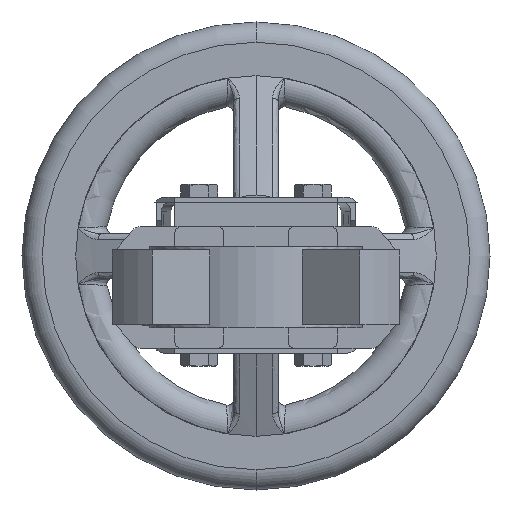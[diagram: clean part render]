
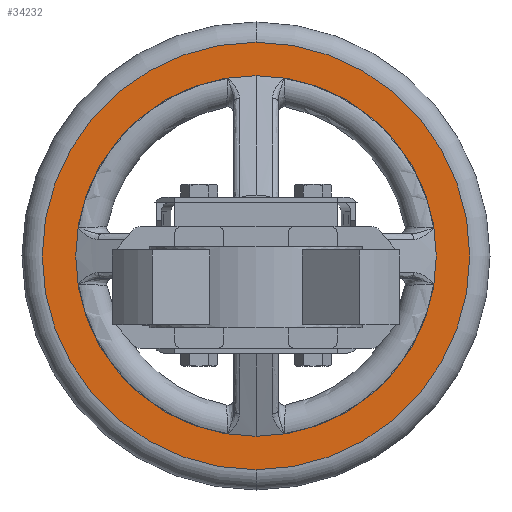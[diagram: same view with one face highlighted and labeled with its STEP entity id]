
A CAD part, front view. The second image highlights one B-rep face of the part: STEP entity #34232.
In plain terms, the highlighted planar face has unit normal (0, -1, 0).
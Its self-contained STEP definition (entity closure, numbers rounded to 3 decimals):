
#10060 = EDGE_CURVE ( 'NONE', #14954, #15151, #28293, .T. ) ;
#10094 = VERTEX_POINT ( 'NONE', #28286 ) ;
#12011 = EDGE_CURVE ( 'NONE', #12103, #10094, #28464, .T. ) ;
#12103 = VERTEX_POINT ( 'NONE', #28452 ) ;
#14954 = VERTEX_POINT ( 'NONE', #28748 ) ;
#15151 = VERTEX_POINT ( 'NONE', #28782 ) ;
#15153 = EDGE_CURVE ( 'NONE', #15151, #14954, #28774, .T. ) ;
#18914 = DIRECTION ( 'NONE',  ( 0., 0., -1. ) ) ;
#18915 = DIRECTION ( 'NONE',  ( 0., -1., 0. ) ) ;
#18916 = CARTESIAN_POINT ( 'NONE',  ( -105.5, 296., 15.5 ) ) ;
#18917 = AXIS2_PLACEMENT_3D ( 'NONE', #18916, #18915, #18914 ) ;
#18918 = PLANE ( 'NONE',  #18917 ) ;
#18919 = FACE_BOUND ( 'NONE', #34143, .T. ) ;
#18920 = FACE_OUTER_BOUND ( 'NONE', #34233, .T. ) ;
#18921 = DIRECTION ( 'NONE',  ( 0., 0., -1. ) ) ;
#18922 = DIRECTION ( 'NONE',  ( 0., -1., 0. ) ) ;
#18923 = CARTESIAN_POINT ( 'NONE',  ( 0., 296., 15.5 ) ) ;
#18924 = AXIS2_PLACEMENT_3D ( 'NONE', #18923, #18922, #18921 ) ;
#18925 = CIRCLE ( 'NONE', #18924, 105.5 ) ;
#28286 = CARTESIAN_POINT ( 'NONE',  ( 0., 296., 121. ) ) ;
#28289 = DIRECTION ( 'NONE',  ( 0., 0., -1. ) ) ;
#28290 = DIRECTION ( 'NONE',  ( 0., -1., 0. ) ) ;
#28291 = CARTESIAN_POINT ( 'NONE',  ( 0., 296., 15.5 ) ) ;
#28292 = AXIS2_PLACEMENT_3D ( 'NONE', #28291, #28290, #28289 ) ;
#28293 = CIRCLE ( 'NONE', #28292, 89. ) ;
#28452 = CARTESIAN_POINT ( 'NONE',  ( 0., 296., -90. ) ) ;
#28454 = DIRECTION ( 'NONE',  ( 0., 0., -1. ) ) ;
#28455 = DIRECTION ( 'NONE',  ( 0., -1., 0. ) ) ;
#28456 = CARTESIAN_POINT ( 'NONE',  ( 0., 296., 15.5 ) ) ;
#28457 = AXIS2_PLACEMENT_3D ( 'NONE', #28456, #28455, #28454 ) ;
#28464 = CIRCLE ( 'NONE', #28457, 105.5 ) ;
#28748 = CARTESIAN_POINT ( 'NONE',  ( 0., 296., 104.5 ) ) ;
#28771 = DIRECTION ( 'NONE',  ( 0., 0., -1. ) ) ;
#28772 = DIRECTION ( 'NONE',  ( 0., -1., 0. ) ) ;
#28773 = AXIS2_PLACEMENT_3D ( 'NONE', #28780, #28772, #28771 ) ;
#28774 = CIRCLE ( 'NONE', #28773, 89. ) ;
#28780 = CARTESIAN_POINT ( 'NONE',  ( 0., 296., 15.5 ) ) ;
#28782 = CARTESIAN_POINT ( 'NONE',  ( 0., 296., -73.5 ) ) ;
#34143 = EDGE_LOOP ( 'NONE', ( #34325, #34318 ) ) ;
#34217 = ORIENTED_EDGE ( 'NONE', *, *, #34230, .T. ) ;
#34218 = ORIENTED_EDGE ( 'NONE', *, *, #12011, .T. ) ;
#34230 = EDGE_CURVE ( 'NONE', #10094, #12103, #18925, .T. ) ;
#34232 = ADVANCED_FACE ( 'NONE', ( #18920, #18919 ), #18918, .T. ) ;
#34233 = EDGE_LOOP ( 'NONE', ( #34218, #34217 ) ) ;
#34318 = ORIENTED_EDGE ( 'NONE', *, *, #15153, .F. ) ;
#34325 = ORIENTED_EDGE ( 'NONE', *, *, #10060, .F. ) ;
